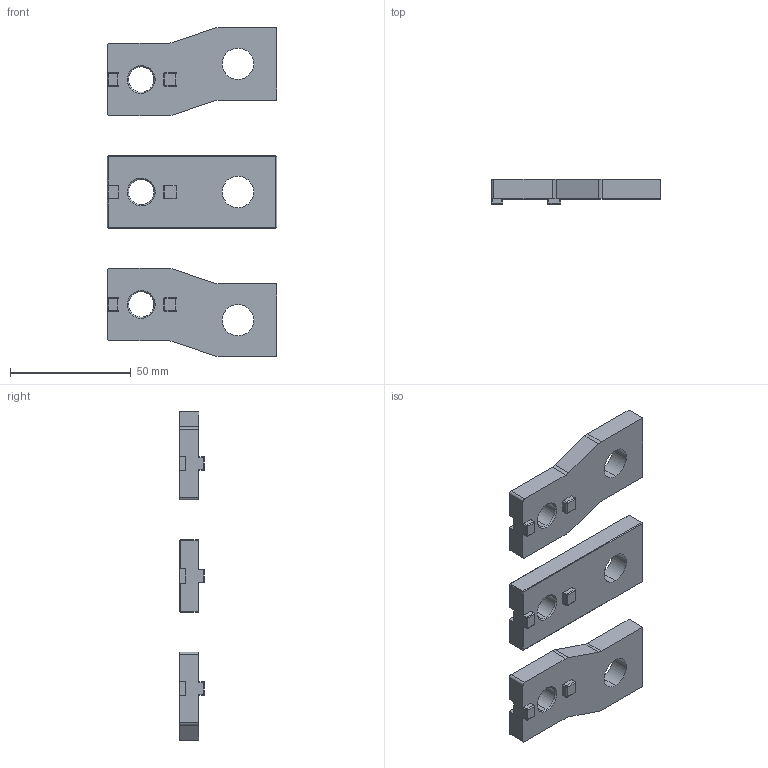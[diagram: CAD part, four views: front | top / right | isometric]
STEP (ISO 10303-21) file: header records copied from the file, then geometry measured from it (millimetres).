
FILE_DESCRIPTION (( 'STEP AP203' ), '1' );
FILE_NAME ('BE ACW400...630.STEP', '2021-11-10T12:34:06', ( '' ), ( '' ), 'SwSTEP 2.0', 'SolidWorks 2018', '' );
FILE_SCHEMA (( 'CONFIG_CONTROL_DESIGN' ));
Length unit declared in the file: millimetre
Products named in the file (1): BE ACW400...630
Bounding box: 70 x 10.3 x 136 mm (x, y, z)
Volume: 44985.9 mm3; surface area: 18263.7 mm2
Topology: 3 solids, 3 shells, 208 faces, 532 edges, 312 vertices
Faces by surface type: plane 94, cylinder 72, sphere 24, cone 18
Entity records: 6291 total; most frequent: CARTESIAN_POINT 1255, DIRECTION 1048, ORIENTED_EDGE 1016, EDGE_CURVE 508, AXIS2_PLACEMENT_3D 357, LINE 334, VECTOR 334, VERTEX_POINT 312
